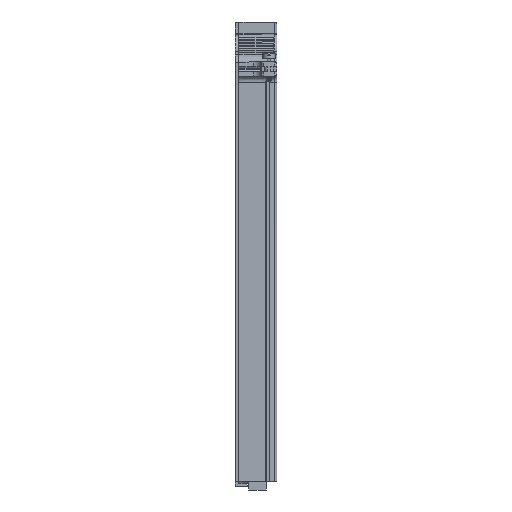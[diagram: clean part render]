
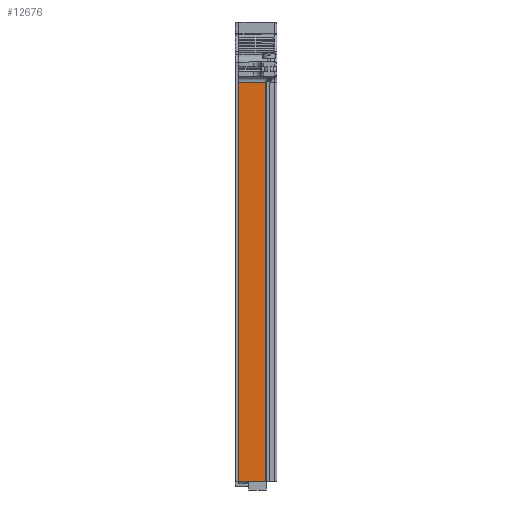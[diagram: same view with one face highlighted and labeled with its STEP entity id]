
A CAD part, left-side view. The second image highlights one B-rep face of the part: STEP entity #12676.
In plain terms, the highlighted planar face has unit normal (-1, 0.009, 0).
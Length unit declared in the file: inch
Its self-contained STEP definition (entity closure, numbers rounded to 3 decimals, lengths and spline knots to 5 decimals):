
#2847=DIRECTION('',(0.,0.,1.));
#2848=VECTOR('',#2847,8.17957);
#2849=CARTESIAN_POINT('',(-2.62457,0.78,-4.70457));
#2850=LINE('',#2849,#2848);
#3204=DIRECTION('',(0.,0.,1.));
#3205=VECTOR('',#3204,8.18441);
#3206=CARTESIAN_POINT('',(-2.62941,0.2251,
-4.70941));
#3207=LINE('',#3206,#3205);
#3211=DIRECTION('',(0.009,1.,0.009));
#3212=VECTOR('',#3211,0.55494);
#3213=CARTESIAN_POINT('',(-2.62941,0.2251,
-4.70941));
#3214=LINE('',#3213,#3212);
#6679=DIRECTION('',(-0.009,-1.,0.));
#6680=VECTOR('',#6679,0.55492);
#6681=CARTESIAN_POINT('',(-2.62457,0.78,3.475));
#6682=LINE('',#6681,#6680);
#9106=CARTESIAN_POINT('',(-2.62457,0.78,-4.70457));
#9107=CARTESIAN_POINT('',(-2.62457,0.78,3.475));
#9108=VERTEX_POINT('',#9106);
#9109=VERTEX_POINT('',#9107);
#9112=CARTESIAN_POINT('',(-2.62941,0.2251,
-4.70941));
#9113=CARTESIAN_POINT('',(-2.62941,0.2251,3.475));
#9114=VERTEX_POINT('',#9112);
#9115=VERTEX_POINT('',#9113);
#12663=CARTESIAN_POINT('',(-2.63,0.158,-4.84685));
#12664=DIRECTION('',(-1.,0.009,0.));
#12665=DIRECTION('',(0.,0.,-1.));
#12666=AXIS2_PLACEMENT_3D('',#12663,#12664,#12665);
#12667=PLANE('',#12666);
#12669=ORIENTED_EDGE('',*,*,#12668,.F.);
#12670=ORIENTED_EDGE('',*,*,#12531,.T.);
#12671=ORIENTED_EDGE('',*,*,#12296,.T.);
#12673=ORIENTED_EDGE('',*,*,#12672,.T.);
#12674=EDGE_LOOP('',(#12669,#12670,#12671,#12673));
#12675=FACE_OUTER_BOUND('',#12674,.F.);
#12676=ADVANCED_FACE('',(#12675),#12667,.T.);
#12296=EDGE_CURVE('',#9108,#9109,#2850,.T.);
#12531=EDGE_CURVE('',#9114,#9108,#3214,.T.);
#12668=EDGE_CURVE('',#9114,#9115,#3207,.T.);
#12672=EDGE_CURVE('',#9109,#9115,#6682,.T.);
